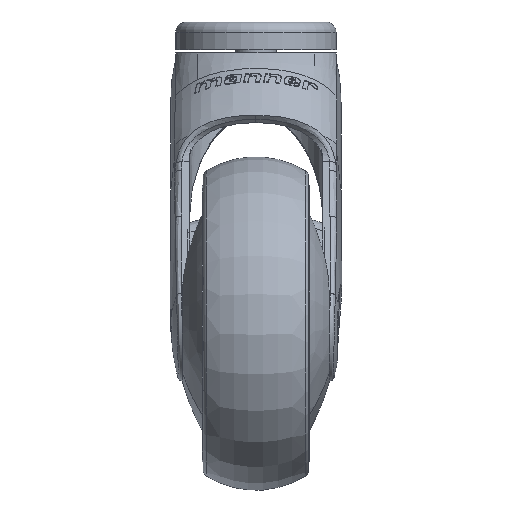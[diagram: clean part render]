
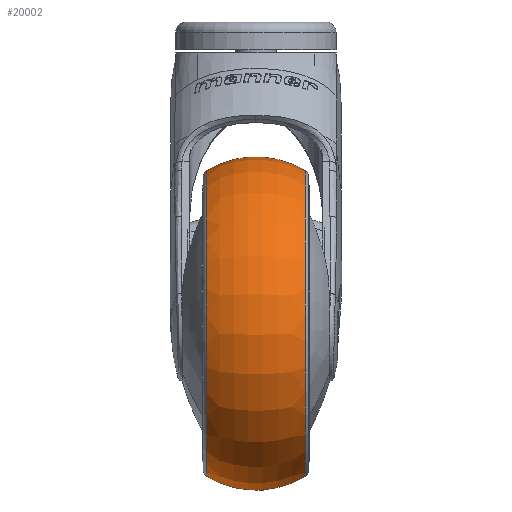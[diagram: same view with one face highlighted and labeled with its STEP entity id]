
A CAD part, left-side view. The second image highlights one B-rep face of the part: STEP entity #20002.
In plain terms, the highlighted toroidal (fillet/blend) face has major radius 22 mm and minor radius 28 mm.
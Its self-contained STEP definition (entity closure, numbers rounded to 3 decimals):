
#10482 = CARTESIAN_POINT ( 'NONE',  ( -47.59, -14.808, -26.695 ) ) ;
#10523 = DIRECTION ( 'NONE',  ( -0.055, 0., -0.998 ) ) ;
#10524 = DIRECTION ( 'NONE',  ( 0., -1., 0. ) ) ;
#10526 = AXIS2_PLACEMENT_3D ( 'NONE', #10541, #10524, #10523 ) ;
#10528 = CIRCLE ( 'NONE', #10526, 45.764 ) ;
#10541 = CARTESIAN_POINT ( 'NONE',  ( -45.078, 14.808, 19. ) ) ;
#10551 = CARTESIAN_POINT ( 'NONE',  ( -47.59, 14.808, -26.695 ) ) ;
#10581 = DIRECTION ( 'NONE',  ( -0.055, 0., -0.998 ) ) ;
#10583 = DIRECTION ( 'NONE',  ( 0.998, 0., -0.055 ) ) ;
#10584 = CARTESIAN_POINT ( 'NONE',  ( -43.871, 0., 40.967 ) ) ;
#10585 = AXIS2_PLACEMENT_3D ( 'NONE', #10584, #10583, #10581 ) ;
#10587 = CIRCLE ( 'NONE', #10585, 28. ) ;
#10594 = CARTESIAN_POINT ( 'NONE',  ( -42.567, -14.808, 64.695 ) ) ;
#10625 = DIRECTION ( 'NONE',  ( 0.055, 0., 0.998 ) ) ;
#10627 = DIRECTION ( 'NONE',  ( -0.998, 0., 0.055 ) ) ;
#10629 = AXIS2_PLACEMENT_3D ( 'NONE', #10646, #10627, #10625 ) ;
#10630 = CIRCLE ( 'NONE', #10629, 28. ) ;
#10646 = CARTESIAN_POINT ( 'NONE',  ( -46.286, 0., -2.967 ) ) ;
#10743 = DIRECTION ( 'NONE',  ( -0.055, 0., -0.998 ) ) ;
#10745 = DIRECTION ( 'NONE',  ( 0., -1., 0. ) ) ;
#10747 = CARTESIAN_POINT ( 'NONE',  ( -45.078, -14.808, 19. ) ) ;
#10749 = AXIS2_PLACEMENT_3D ( 'NONE', #10747, #10745, #10743 ) ;
#10751 = CIRCLE ( 'NONE', #10749, 45.764 ) ;
#10768 = DIRECTION ( 'NONE',  ( -0.055, 0., -0.998 ) ) ;
#10770 = DIRECTION ( 'NONE',  ( 0., -1., 0. ) ) ;
#10771 = AXIS2_PLACEMENT_3D ( 'NONE', #10778, #10770, #10768 ) ;
#10772 = TOROIDAL_SURFACE ( 'NONE', #10771, 22., 28. ) ;
#10778 = CARTESIAN_POINT ( 'NONE',  ( -45.078, 0., 19. ) ) ;
#10779 = FACE_OUTER_BOUND ( 'NONE', #20001, .T. ) ;
#11530 = CARTESIAN_POINT ( 'NONE',  ( -42.567, 14.808, 64.695 ) ) ;
#19927 = VERTEX_POINT ( 'NONE', #10482 ) ;
#19940 = ORIENTED_EDGE ( 'NONE', *, *, #19949, .T. ) ;
#19944 = ORIENTED_EDGE ( 'NONE', *, *, #19970, .F. ) ;
#19946 = VERTEX_POINT ( 'NONE', #10551 ) ;
#19949 = EDGE_CURVE ( 'NONE', #32122, #19946, #10528, .T. ) ;
#19954 = EDGE_CURVE ( 'NONE', #19946, #19927, #10630, .T. ) ;
#19969 = VERTEX_POINT ( 'NONE', #10594 ) ;
#19970 = EDGE_CURVE ( 'NONE', #32122, #19969, #10587, .T. ) ;
#20001 = EDGE_LOOP ( 'NONE', ( #19944, #19940, #20027, #20026 ) ) ;
#20002 = ADVANCED_FACE ( 'NONE', ( #10779 ), #10772, .T. ) ;
#20006 = EDGE_CURVE ( 'NONE', #19969, #19927, #10751, .T. ) ;
#20026 = ORIENTED_EDGE ( 'NONE', *, *, #20006, .F. ) ;
#20027 = ORIENTED_EDGE ( 'NONE', *, *, #19954, .T. ) ;
#32122 = VERTEX_POINT ( 'NONE', #11530 ) ;
